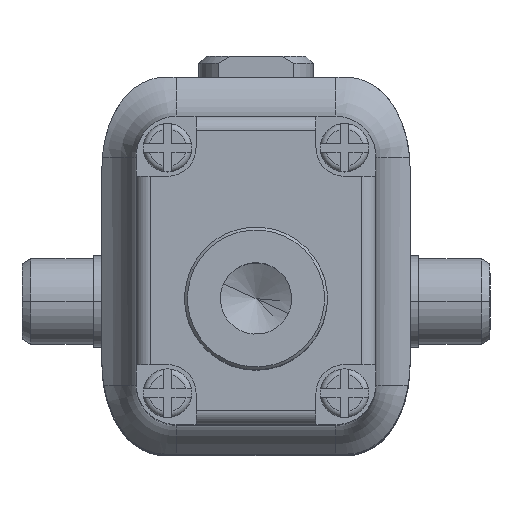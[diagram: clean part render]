
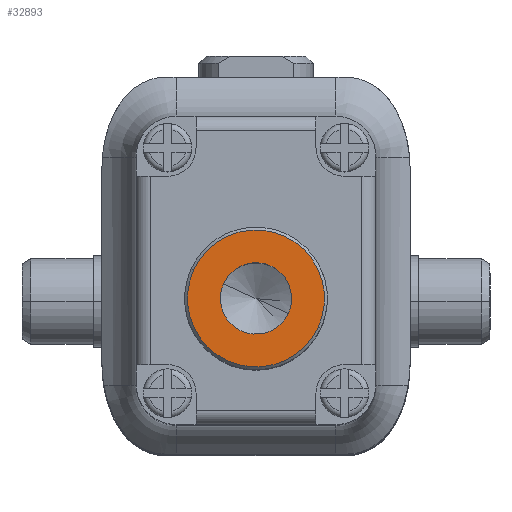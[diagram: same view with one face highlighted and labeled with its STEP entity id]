
A CAD part, top view. The second image highlights one B-rep face of the part: STEP entity #32893.
In plain terms, the highlighted planar face has unit normal (0, 0, 1) as drawn and (0, 0, -1) by its records, which use the part's own axes.
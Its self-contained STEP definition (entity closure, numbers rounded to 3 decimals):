
#156 = EDGE_CURVE ( 'NONE', #3588, #9324, #21560, .T. ) ;
#189 = DIRECTION ( 'NONE',  ( 0., 0., -1. ) ) ;
#3029 = CARTESIAN_POINT ( 'NONE',  ( 1.25, 0., 0. ) ) ;
#3588 = VERTEX_POINT ( 'NONE', #38334 ) ;
#5370 = CARTESIAN_POINT ( 'NONE',  ( 0., 0., 0. ) ) ;
#9324 = VERTEX_POINT ( 'NONE', #48923 ) ;
#10483 = EDGE_CURVE ( 'NONE', #9324, #3588, #22498, .T. ) ;
#11898 = AXIS2_PLACEMENT_3D ( 'NONE', #39028, #34058, #30226 ) ;
#15960 = AXIS2_PLACEMENT_3D ( 'NONE', #5370, #35587, #31177 ) ;
#16856 = CIRCLE ( 'NONE', #27140, 1.25 ) ;
#17043 = FACE_BOUND ( 'NONE', #32611, .T. ) ;
#18679 = DIRECTION ( 'NONE',  ( 0., 0., -1. ) ) ;
#20470 = EDGE_CURVE ( 'NONE', #57697, #53427, #21374, .T. ) ;
#20852 = FACE_OUTER_BOUND ( 'NONE', #53664, .T. ) ;
#21374 = CIRCLE ( 'NONE', #40094, 1.25 ) ;
#21514 = ORIENTED_EDGE ( 'NONE', *, *, #40337, .F. ) ;
#21560 = CIRCLE ( 'NONE', #15960, 2.4 ) ;
#22498 = CIRCLE ( 'NONE', #55278, 2.4 ) ;
#23059 = CARTESIAN_POINT ( 'NONE',  ( 0., 0., 0. ) ) ;
#25077 = ORIENTED_EDGE ( 'NONE', *, *, #10483, .T. ) ;
#27140 = AXIS2_PLACEMENT_3D ( 'NONE', #30798, #48719, #36940 ) ;
#28048 = DIRECTION ( 'NONE',  ( -1., 0., 0. ) ) ;
#30226 = DIRECTION ( 'NONE',  ( 1., 0., 0. ) ) ;
#30798 = CARTESIAN_POINT ( 'NONE',  ( 0., 0., 0. ) ) ;
#31177 = DIRECTION ( 'NONE',  ( 1., 0., 0. ) ) ;
#32611 = EDGE_LOOP ( 'NONE', ( #50019, #21514 ) ) ;
#32893 = ADVANCED_FACE ( 'NONE', ( #20852, #17043 ), #51957, .F. ) ;
#34058 = DIRECTION ( 'NONE',  ( 0., 0., 1. ) ) ;
#35587 = DIRECTION ( 'NONE',  ( 0., 0., -1. ) ) ;
#35952 = CARTESIAN_POINT ( 'NONE',  ( 0., 0., 0. ) ) ;
#36940 = DIRECTION ( 'NONE',  ( -1., 0., 0. ) ) ;
#38035 = ORIENTED_EDGE ( 'NONE', *, *, #156, .T. ) ;
#38334 = CARTESIAN_POINT ( 'NONE',  ( -2.4, 0., 0. ) ) ;
#39028 = CARTESIAN_POINT ( 'NONE',  ( 0., 0., 0. ) ) ;
#40094 = AXIS2_PLACEMENT_3D ( 'NONE', #23059, #18679, #28048 ) ;
#40337 = EDGE_CURVE ( 'NONE', #53427, #57697, #16856, .T. ) ;
#45340 = DIRECTION ( 'NONE',  ( 1., 0., 0. ) ) ;
#48719 = DIRECTION ( 'NONE',  ( 0., 0., -1. ) ) ;
#48923 = CARTESIAN_POINT ( 'NONE',  ( 2.4, 0., 0. ) ) ;
#49394 = CARTESIAN_POINT ( 'NONE',  ( -1.25, 0., 0. ) ) ;
#50019 = ORIENTED_EDGE ( 'NONE', *, *, #20470, .F. ) ;
#51957 = PLANE ( 'NONE',  #11898 ) ;
#53427 = VERTEX_POINT ( 'NONE', #3029 ) ;
#53664 = EDGE_LOOP ( 'NONE', ( #25077, #38035 ) ) ;
#55278 = AXIS2_PLACEMENT_3D ( 'NONE', #35952, #189, #45340 ) ;
#57697 = VERTEX_POINT ( 'NONE', #49394 ) ;
